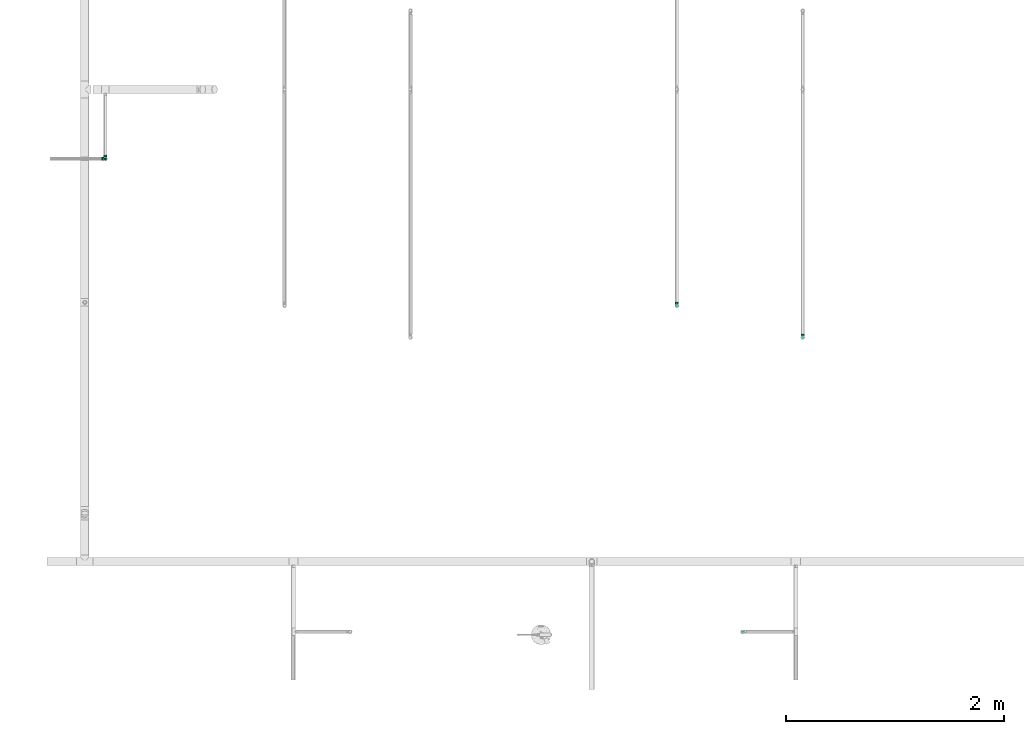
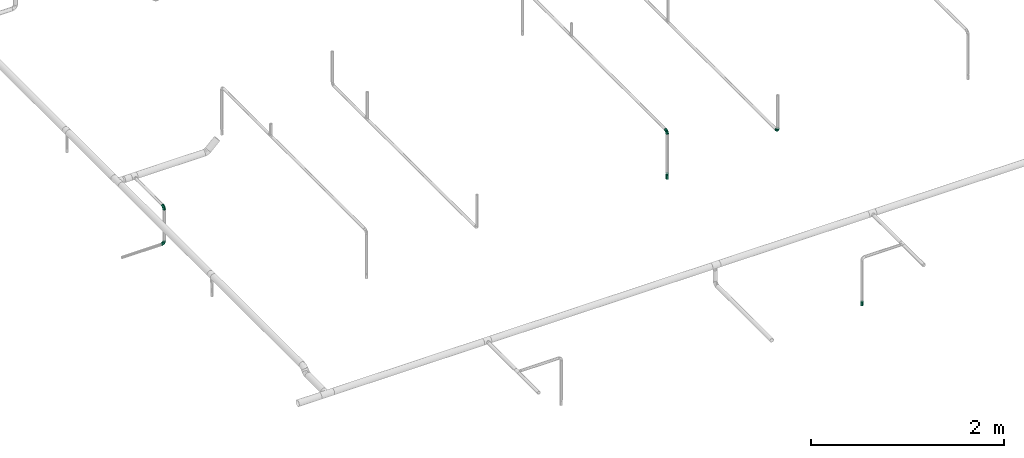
# One storey, part 41 of 95: 5 flow fittings, 2 flow terminals.
"""IFC2X3 building model written with IfcOpenShell, lengths in millimetres."""

from ifc_helpers import new_model, entity, si_unit, converted_unit, derived_unit, direction, frame, origin_with_axes, place, context, subcontext, project, spatial, open_shell, surface_model, source, transform, mapped, type_object, element, save


model = new_model("IFC2X3")

# Units and contexts
model_context = context("Model", 3, precision=0.01, world=frame((0.0, 4.29681676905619e-09, 0.0)), true_north=direction((4.01073788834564e-13, 1.0)))
plan_context = context("Plan", 3, precision=0.01, world=frame((0.0, 4.29681676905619e-09, 0.0)), true_north=direction((4.01073788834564e-13, 1.0)))
body_context = subcontext(model_context, "Body", "Model", "MODEL_VIEW")
ifc_project = project(units=[converted_unit("PLANEANGLEUNIT", "DEGREE", entity("IfcPositiveLengthMeasure", 0.0174532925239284), si_unit("PLANEANGLEUNIT", "RADIAN"), dimensions=[0, 0, 0, 0, 0, 0, 0]), si_unit("AREAUNIT", "SQUARE_METRE"), si_unit("LENGTHUNIT", "METRE", prefix="MILLI"), si_unit("MASSUNIT", "GRAM", prefix="KILO"), si_unit("POWERUNIT", "WATT"), si_unit("PRESSUREUNIT", "PASCAL"), si_unit("FORCEUNIT", "NEWTON", prefix="KILO"), si_unit("ELECTRICVOLTAGEUNIT", "VOLT"), si_unit("ELECTRICCURRENTUNIT", "AMPERE"), si_unit("THERMODYNAMICTEMPERATUREUNIT", "DEGREE_CELSIUS"), si_unit("TIMEUNIT", "SECOND"), si_unit("VOLUMEUNIT", "CUBIC_METRE"), derived_unit("LINEARVELOCITYUNIT", [(si_unit("LENGTHUNIT", "METRE"), 1), (si_unit("TIMEUNIT", "SECOND"), -1)]), derived_unit("VOLUMETRICFLOWRATEUNIT", [(si_unit("VOLUMEUNIT", "CUBIC_METRE"), 1), (si_unit("TIMEUNIT", "SECOND"), -1)]), derived_unit("THERMALTRANSMITTANCEUNIT", [(si_unit("POWERUNIT", "WATT"), 1), (si_unit("THERMODYNAMICTEMPERATUREUNIT", "KELVIN"), -1), (si_unit("AREAUNIT", "SQUARE_METRE"), -1)]), derived_unit("SOUNDPRESSUREUNIT", [(si_unit("PRESSUREUNIT", "PASCAL"), 1)])], contexts=[model_context, plan_context])

# Site, building, storey
site_placement = place(None, frame((0.0, -4.29681676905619e-09, 0.0), z_axis=(0.0, 0.0, 1.0), x_axis=(1.0, 0.0, 0.0)))
site = spatial("IfcSite", under=ifc_project, at=site_placement, CompositionType="ELEMENT")
building_placement = place(site_placement, frame((0.0, 4.29681676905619e-09, 0.0), z_axis=(0.0, 0.0, 1.0), x_axis=(1.0, 0.0, 0.0)))
building = spatial("IfcBuilding", under=site, at=building_placement, Name="mc-building", CompositionType="ELEMENT")
storey_placement = place(building_placement, frame((0.0, 0.0, 210900.0), z_axis=(0.0, 0.0, 1.0), x_axis=(1.0, 0.0, 0.0)))
storey = spatial("IfcBuildingStorey", under=building, at=storey_placement, Name="Nivå F", CompositionType="ELEMENT", Elevation=210900.0)

# Flow fittings
pipe_fitting_type_1 = type_object("IfcPipeFittingType", Name="magi_pipe_fe_reducer_centric_short_NOR", PredefinedType="TRANSITION")
shared_shape_1 = source(origin_with_axes(), body_context, "Body", "SurfaceModel", [
    surface_model("IfcShellBasedSurfaceModel", [(-2.0, -7.56604, -7.56604), (-2.0, -10.33541, -2.76936), (-2.0, -5.35, -9.26647), (-2.0, 5.35, -9.26647), (-2.0, 10.33541, -2.76936), (-2.0, 7.56604, -7.56604), (12.4, 11.9501, 11.9501), (12.4, 0.0, 16.9), (12.4, 11.9501, -11.9501), (12.4, 16.9, 0.0), (0.0, -10.7, 0.0), (0.0, -5.35, 9.26647), (0.0, -5.35, -9.26647), (0.0, 10.7, 0.0), (12.4, 15.66253, -2.98753), (12.4, 8.96258, -13.18758), (0.0, 6.6875, -6.94985), (12.4, -15.66253, -2.98753), (12.4, -16.9, 0.0), (12.4, 5.97505, -14.42505), (0.0, 5.35, -9.26647), (12.4, 14.42505, -5.97505), (0.0, 8.025, -4.63324), (0.0, 9.3625, -2.31662), (0.0, -9.3625, -2.31662), (0.0, -8.025, -4.63324), (12.4, -14.42505, -5.97505), (12.4, 13.18758, -8.96258), (12.4, -13.18758, -8.96258), (12.4, -11.9501, -11.9501), (0.0, -6.6875, -6.94985), (12.4, -8.96258, -13.18758), (12.4, -5.97505, -14.42505), (12.4, -15.66253, 2.98753), (12.4, -8.96258, 13.18758), (0.0, -6.6875, 6.94985), (12.4, -11.9501, 11.9501), (12.4, 15.66253, 2.98753), (12.4, -5.97505, 14.42505), (12.4, -14.42505, 5.97505), (0.0, -8.025, 4.63324), (0.0, -9.3625, 2.31662), (0.0, 9.3625, 2.31662), (0.0, 8.025, 4.63324), (12.4, 14.42505, 5.97505), (12.4, -13.18758, 8.96258), (12.4, 13.18758, 8.96258), (0.0, 6.6875, 6.94985), (12.4, 8.96258, 13.18758), (0.0, 5.35, 9.26647), (12.4, 5.97505, 14.42505), (14.4, 4.37404, -16.32415), (14.4, 8.45, -14.63583), (14.4, 11.9501, -11.9501), (14.4, -8.45, -14.63583), (14.4, 16.32415, -4.37404), (14.4, 16.32415, 4.37404), (14.4, 14.63583, -8.45), (14.4, 0.0, -16.9), (14.4, -4.37404, -16.32415), (14.4, -11.9501, -11.9501), (14.4, -16.32415, -4.37404), (14.4, -14.63583, -8.45), (14.4, -16.32415, 4.37404), (14.4, 16.9, 0.0), (14.4, 14.63583, 8.45), (14.4, 11.9501, 11.9501), (14.4, 4.37404, 16.32415), (14.4, 8.45, 14.63583), (14.4, 0.0, 16.9), (14.4, -14.63583, 8.45), (14.4, -16.9, 0.0), (14.4, -8.45, 14.63583), (14.4, -11.9501, 11.9501), (14.4, -4.37404, 16.32415), (12.4, 4.37404, 16.32415), (12.4, -14.63583, 8.45), (12.4, 16.32415, 4.37404), (12.4, 8.45, 14.63583), (12.4, 14.63583, 8.45), (12.4, -8.45, 14.63583), (12.4, -4.37404, 16.32415), (12.4, -16.32415, 4.37404), (12.4, -16.32415, -4.37404), (12.4, -8.45, -14.63583), (12.4, 16.32415, -4.37404), (12.4, 14.63583, -8.45), (12.4, 8.45, -14.63583), (12.4, 4.37404, -16.32415), (12.4, 0.0, -16.9), (12.4, -14.63583, -8.45), (12.4, -4.37404, -16.32415), (-2.0, 2.76936, 10.33541), (-2.0, 0.0, 10.7), (-2.0, 5.35, 9.26647), (-2.0, 7.56604, 7.56604), (-2.0, 9.26647, 5.35), (-2.0, 10.33541, 2.76936), (-2.0, -10.33541, 2.76936), (-2.0, -2.76936, 10.33541), (-2.0, -7.56604, 7.56604), (-2.0, -5.35, 9.26647), (-2.0, -9.26647, 5.35), (-2.0, -10.7, 0.0), (-2.0, 9.26647, -5.35), (-2.0, 2.76936, -10.33541), (-2.0, -9.26647, -5.35), (-2.0, 0.0, -10.7), (-2.0, -2.76936, -10.33541), (-2.0, 10.7, 0.0), (0.0, 0.0, -10.7), (0.0, 2.76936, -10.33541), (0.0, 10.33541, -2.76936), (0.0, 7.56604, -7.56604), (0.0, -10.33541, -2.76936), (0.0, 9.26647, -5.35), (0.0, 0.0, 10.7), (0.0, -2.76936, -10.33541), (0.0, -7.56604, -7.56604), (0.0, -9.26647, -5.35), (0.0, 10.33541, 2.76936), (0.0, 9.26647, 5.35), (0.0, 7.56604, 7.56604), (0.0, 2.76936, 10.33541), (0.0, -7.56604, 7.56604), (0.0, -10.33541, 2.76936), (0.0, -9.26647, 5.35), (0.0, -2.76936, 10.33541), (0.0, 2.675, -9.26647), (0.0, -2.675, -9.26647), (12.4, 2.98753, -15.66253), (0.0, 0.0, -9.26647), (12.4, -2.98753, -15.66253), (0.0, -2.675, 9.26647), (0.0, 2.675, 9.26647), (12.4, -2.98753, 15.66253), (0.0, 0.0, 9.26647), (12.4, 2.98753, 15.66253)], [open_shell([[[0, 1, 2]], [[3, 4, 5]], [[6, 7, 8]], [[8, 9, 6]], [[10, 11, 12]], [[13, 9, 14]], [[15, 16, 8]], [[17, 18, 10]], [[15, 19, 20]], [[21, 22, 23]], [[24, 25, 26]], [[22, 21, 27]], [[28, 26, 25]], [[29, 30, 31]], [[12, 32, 31]], [[10, 18, 33]], [[34, 35, 36]], [[37, 9, 13]], [[34, 38, 11]], [[39, 40, 41]], [[42, 43, 44]], [[40, 39, 45]], [[46, 44, 43]], [[6, 47, 48]], [[49, 50, 48]], [[51, 52, 53]], [[54, 51, 53]], [[53, 55, 56]], [[55, 53, 57]], [[53, 56, 54]], [[58, 54, 59]], [[58, 51, 54]], [[60, 61, 62]], [[61, 60, 54]], [[54, 63, 61]], [[56, 55, 64]], [[56, 65, 66]], [[56, 66, 67]], [[67, 63, 54]], [[67, 66, 68]], [[63, 67, 69]], [[69, 70, 63]], [[71, 61, 63]], [[70, 72, 73]], [[70, 69, 72]], [[72, 69, 74]], [[54, 56, 67]], [[75, 76, 7]], [[77, 75, 78]], [[6, 79, 77]], [[6, 77, 78]], [[76, 75, 77]], [[80, 76, 36]], [[80, 81, 7]], [[7, 76, 80]], [[82, 76, 77]], [[82, 83, 18]], [[82, 77, 84]], [[77, 85, 8]], [[8, 85, 86]], [[8, 87, 88]], [[84, 77, 8]], [[88, 89, 8]], [[83, 29, 90]], [[29, 83, 84]], [[84, 89, 91]], [[83, 82, 84]], [[8, 89, 84]], [[85, 77, 9]], [[83, 61, 18]], [[90, 62, 83]], [[54, 29, 84]], [[90, 29, 60]], [[59, 84, 91]], [[83, 62, 61]], [[61, 71, 18]], [[59, 54, 84]], [[60, 29, 54]], [[60, 62, 90]], [[58, 59, 91]], [[91, 89, 58]], [[88, 51, 89]], [[87, 52, 88]], [[57, 8, 86]], [[87, 8, 53]], [[55, 86, 85]], [[87, 53, 52]], [[52, 51, 88]], [[64, 55, 85]], [[57, 86, 55]], [[57, 53, 8]], [[9, 64, 85]], [[89, 51, 58]], [[77, 56, 9]], [[79, 65, 77]], [[68, 6, 78]], [[79, 6, 66]], [[67, 78, 75]], [[77, 65, 56]], [[56, 64, 9]], [[67, 68, 78]], [[66, 6, 68]], [[66, 65, 79]], [[69, 67, 75]], [[75, 7, 69]], [[81, 74, 7]], [[80, 72, 81]], [[70, 36, 76]], [[80, 36, 73]], [[63, 76, 82]], [[80, 73, 72]], [[72, 74, 81]], [[71, 63, 82]], [[70, 76, 63]], [[70, 73, 36]], [[18, 71, 82]], [[7, 74, 69]], [[92, 1, 93]], [[94, 1, 92]], [[95, 96, 97]], [[95, 97, 94]], [[98, 93, 1]], [[99, 100, 101]], [[99, 93, 100]], [[100, 98, 102]], [[93, 98, 100]], [[98, 1, 103]], [[94, 97, 1]], [[1, 97, 4]], [[5, 4, 104]], [[4, 3, 1]], [[105, 1, 3]], [[1, 0, 106]], [[2, 107, 108]], [[2, 1, 105]], [[105, 107, 2]], [[4, 97, 109]], [[20, 110, 111]], [[112, 20, 113]], [[114, 20, 112]], [[112, 113, 115]], [[116, 114, 112]], [[110, 12, 117]], [[110, 20, 12]], [[118, 114, 119]], [[114, 118, 12]], [[20, 114, 12]], [[112, 13, 120]], [[120, 121, 122]], [[120, 122, 123]], [[116, 112, 123]], [[123, 122, 49]], [[116, 124, 114]], [[125, 124, 126]], [[10, 114, 125]], [[124, 127, 11]], [[125, 114, 124]], [[127, 124, 116]], [[123, 112, 120]], [[1, 114, 103]], [[106, 119, 1]], [[12, 0, 2]], [[106, 0, 118]], [[117, 2, 108]], [[1, 119, 114]], [[114, 10, 103]], [[117, 12, 2]], [[118, 0, 12]], [[118, 119, 106]], [[110, 117, 108]], [[108, 107, 110]], [[105, 111, 107]], [[3, 20, 105]], [[115, 5, 104]], [[3, 5, 113]], [[112, 104, 4]], [[3, 113, 20]], [[20, 111, 105]], [[13, 112, 4]], [[115, 104, 112]], [[115, 113, 5]], [[109, 13, 4]], [[107, 111, 110]], [[97, 120, 109]], [[96, 121, 97]], [[49, 95, 94]], [[96, 95, 122]], [[123, 94, 92]], [[97, 121, 120]], [[120, 13, 109]], [[123, 49, 94]], [[122, 95, 49]], [[122, 121, 96]], [[116, 123, 92]], [[92, 93, 116]], [[99, 127, 93]], [[101, 11, 99]], [[126, 100, 102]], [[101, 100, 124]], [[125, 102, 98]], [[101, 124, 11]], [[11, 127, 99]], [[10, 125, 98]], [[126, 102, 125]], [[126, 124, 100]], [[103, 10, 98]], [[93, 127, 116]], [[18, 7, 36]], [[18, 29, 8]], [[89, 8, 29]], [[18, 8, 7]], [[13, 11, 49]], [[13, 20, 12]], [[13, 12, 11]], [[24, 26, 17]], [[10, 24, 17]], [[16, 15, 20]], [[30, 12, 31]], [[23, 14, 21]], [[19, 128, 20]], [[27, 8, 16]], [[32, 12, 129]], [[30, 28, 25]], [[130, 131, 128]], [[129, 132, 32]], [[16, 22, 27]], [[13, 14, 23]], [[128, 19, 130]], [[130, 89, 131]], [[131, 132, 129]], [[89, 132, 131]], [[28, 30, 29]], [[42, 44, 37]], [[13, 42, 37]], [[35, 34, 11]], [[47, 49, 48]], [[41, 33, 39]], [[38, 133, 11]], [[45, 36, 35]], [[50, 49, 134]], [[47, 46, 43]], [[135, 136, 133]], [[134, 137, 50]], [[35, 40, 45]], [[10, 33, 41]], [[133, 38, 135]], [[135, 7, 136]], [[136, 137, 134]], [[7, 137, 136]], [[46, 47, 6]]])]),
])
flow_fitting_placement = place(storey_placement, frame((526298.68266, 444207.85, 3762.948), z_axis=(-1.0, 0.0, 0.0), x_axis=(0.0, 0.0, 1.0)))
element("IfcFlowFitting", 1, at=flow_fitting_placement, inside=storey, type_object=pipe_fitting_type_1, Name="magi_pipe_fe_reducer_centric_short_NOR", context=body_context, shape_type="MappedRepresentation", body=[
    mapped(shared_shape_1, transform((0.0, 0.0, 0.0), scale=1.0)),
])
pipe_fitting_type_2 = type_object("IfcPipeFittingType", Name="magi_pipe_fe_elbow_short_001", PredefinedType="BEND")
shared_shape_2 = source(origin_with_axes(), body_context, "Body", "SurfaceModel", [
    surface_model("IfcShellBasedSurfaceModel", [(-33.8, 8.45, -14.63583), (-33.8, 4.37404, -16.32415), (-33.8, 11.9501, -11.9501), (-33.8, -11.9501, -11.9501), (-33.8, -14.63583, -8.45), (-33.8, -8.45, -14.63583), (-33.8, 0.0, -16.9), (-33.8, -4.37404, -16.32415), (-33.8, -4.37404, 16.32415), (-33.8, 0.0, 16.9), (-33.8, -8.45, 14.63583), (-33.8, 16.32415, -4.37404), (-33.8, 14.63583, -8.45), (-33.8, -16.32415, -4.37404), (-33.8, -16.9, 0.0), (-33.8, -16.32415, 4.37404), (-33.8, 11.9501, 11.9501), (-33.8, 14.63583, 8.45), (-33.8, 16.32415, 4.37404), (-33.8, 4.37404, 16.32415), (-33.8, 8.45, 14.63583), (-33.8, -14.63583, 8.45), (-33.8, -11.9501, 11.9501), (-33.8, 16.9, 0.0), (-11.9501, 33.8, -11.9501), (0.0, 33.8, -16.9), (-4.37404, 33.8, -16.32415), (-8.45, 33.8, -14.63583), (-14.63583, 33.8, -8.45), (-16.32415, 33.8, -4.37404), (14.63583, 33.8, -8.45), (8.45, 33.8, 14.63583), (16.32415, 33.8, -4.37404), (8.45, 33.8, -14.63583), (11.9501, 33.8, -11.9501), (4.37404, 33.8, -16.32415), (16.32415, 33.8, 4.37404), (16.9, 33.8, 0.0), (-11.9501, 33.8, 11.9501), (-16.32415, 33.8, 4.37404), (-14.63583, 33.8, 8.45), (-8.45, 33.8, 14.63583), (-4.37404, 33.8, 16.32415), (11.9501, 33.8, 11.9501), (14.63583, 33.8, 8.45), (0.0, 33.8, 16.9), (4.37404, 33.8, 16.32415), (-16.9, 33.8, 0.0), (-24.79389, -13.12945, 9.48721), (-22.19287, -9.75018, 12.59315), (-24.09897, -14.97035, 0.0), (-14.93934, -10.76256, 8.5297), (-22.46095, -14.75051, 5.27077), (14.75051, 22.46094, 5.27077), (11.9251, 13.23888, 4.33236), (13.04069, 14.39795, 0.0), (7.71387, 13.68847, 11.55891), (9.75018, 22.19287, 12.59315), (4.10169, 13.0571, 14.04018), (-24.84007, -6.39063, 15.2048), (-25.81779, -2.23879, 16.61097), (-23.66549, 2.59054, 16.87119), (-26.50418, 14.06512, 11.08152), (-24.21253, 17.66365, 7.72657), (-29.58514, 15.86957, 7.00283), (-6.17382, -7.5455, 0.0), (-13.23888, -11.9251, 4.33236), (-14.39795, -13.04069, 0.0), (-17.81434, 18.87373, 11.97104), (-6.30846, 29.15138, 15.82987), (-2.31622, 25.28002, 16.85849), (-29.23923, 10.23435, 13.77053), (-1.45439, -2.85688, 7.61475), (-0.28326, 0.34872, 10.09509), (-5.74484, -4.04709, 10.4122), (-4.41137, 11.31918, 16.59407), (-8.39727, 3.10034, 15.7812), (-1.72649, 9.1306, 15.53089), (-17.39909, 24.75344, 7.64977), (-26.19233, 20.0512, 0.0), (-28.14518, 17.29657, 4.25857), (-26.05147, 6.6281, 15.96447), (-5.87354, 16.61944, 16.86968), (-12.51807, 12.51807, 16.48937), (-10.06312, 7.38516, 16.81295), (-3.01882, 3.01882, 13.81718), (-13.0571, -4.10169, 14.04018), (-16.82553, -0.15166, 16.38038), (10.76256, 14.93934, 8.5297), (13.12945, 24.79389, 9.48721), (6.39063, 24.84007, 15.2048), (2.23879, 25.81779, 16.61097), (-13.68847, -7.71387, 11.55891), (14.97035, 24.09897, 0.0), (-7.30894, 22.89991, 16.09489), (-10.67958, 26.17414, 14.008), (-12.78295, 18.26924, 15.06066), (-13.88562, 22.45231, 12.93244), (-18.04944, 15.16501, 14.04434), (-23.11658, 20.08178, 4.02986), (-21.84989, 21.84989, 0.0), (-18.55817, 25.48277, 3.93065), (-13.95142, 26.94732, 11.03289), (-18.57098, 7.23906, 16.59756), (-16.58335, 4.14122, 16.89279), (-17.96666, 11.46709, 15.63151), (-9.84453, 17.54304, 16.18938), (0.15166, 16.82553, 16.38038), (-23.27207, 11.47201, 14.23154), (3.84842, 5.86994, 10.70473), (-8.0212, -7.54413, 7.93275), (1.00345, -2.19508, 4.57414), (5.13203, 3.01004, 5.90201), (5.24161, 1.7543, 2.53265), (8.70457, 7.04947, 3.99182), (-20.0512, 26.19233, 0.0), (8.4852, 8.76699, 7.09296), (-4.55488, -6.72064, 4.90681), (2.05031, -2.05031, 0.0), (7.5455, 6.17382, 0.0), (-26.75399, 2.1369, -16.845), (-14.61995, 24.73803, -11.27736), (-28.45274, -13.45335, -9.81895), (-26.00469, 6.63555, -15.96645), (-23.06726, 20.04573, -4.26202), (-13.80647, -4.26506, -14.17873), (-14.67501, -0.21081, -16.07388), (-6.7902, -0.2828, -13.8478), (-24.53586, 11.08096, -14.13417), (-26.72048, 14.00837, -11.05776), (10.0967, 24.44989, -12.75976), (5.83237, 21.40218, -15.03047), (6.66249, 28.54238, -15.38093), (-20.38182, 15.48705, -12.74596), (12.53268, 21.23441, -9.15363), (12.54494, 15.67504, -5.54878), (9.7522, 12.89279, -8.66343), (-15.65186, 19.64213, -13.01327), (-12.03528, 20.66498, -14.67665), (-15.61907, 15.61906, -14.83879), (-25.56551, -15.26206, 0.0), (-24.65452, -15.12934, -5.50955), (13.45335, 28.45274, -9.81895), (15.12934, 24.65452, -5.50955), (-7.35442, -8.31014, -5.65563), (-15.67504, -12.54494, -5.54878), (-24.44989, -10.0967, -12.75976), (0.16522, 0.41303, -9.71728), (-5.70658, -5.33066, -8.89288), (-5.13869, -2.37198, -11.53565), (-21.23441, -12.53268, -9.15363), (0.71146, 7.93863, -14.09382), (0.21081, 14.67501, -16.07388), (3.49291, 14.42772, -14.76381), (-24.89911, -2.13088, -16.591), (-28.54238, -6.66249, -15.38093), (-18.44386, -7.71663, -13.26957), (2.13088, 24.89911, -16.591), (-28.64342, 17.44413, -2.89318), (1.70017, -1.28722, -5.09504), (-16.57067, 26.81947, -7.36596), (-17.69055, 27.4263, -3.76405), (-12.89279, -9.7522, -8.66343), (-5.96611, 5.96611, -15.95814), (-20.53709, 20.09345, -8.28985), (-2.1369, 26.75399, -16.845), (-6.89872, 24.58781, -16.02578), (-10.60739, 26.53157, -13.98044), (-21.40218, -5.83237, -15.03047), (2.93192, 5.89627, -11.55917), (6.89393, 12.61842, -11.82233), (5.58056, 5.95325, -8.79455), (-3.99512, 18.61798, -16.89635), (8.31014, 7.35442, -5.65563), (-9.1383, 9.86148, -16.89041), (-9.99983, 16.02119, -16.39699), (-16.68576, 9.78031, -16.34199), (-27.01915, 16.61158, -7.12979), (15.26206, 25.56551, 0.0), (-18.61798, 3.99512, -16.89635), (-19.37495, 27.82495, 0.0), (-12.61842, -6.89393, -11.82233), (-18.84705, 19.14018, -10.96545)], [open_shell([[[0, 1, 2]], [[3, 4, 5]], [[6, 7, 5]], [[8, 9, 10]], [[1, 6, 2]], [[11, 12, 2]], [[4, 2, 6]], [[2, 13, 10]], [[5, 4, 6]], [[2, 4, 13]], [[14, 15, 13]], [[11, 2, 16]], [[11, 17, 18]], [[11, 16, 17]], [[19, 20, 16]], [[16, 2, 10]], [[19, 16, 10]], [[21, 22, 15]], [[22, 13, 15]], [[22, 10, 13]], [[10, 9, 19]], [[11, 18, 23]], [[24, 25, 26]], [[24, 26, 27]], [[24, 28, 29]], [[25, 24, 30]], [[31, 32, 24]], [[33, 30, 34]], [[33, 35, 25]], [[25, 30, 33]], [[32, 30, 24]], [[32, 36, 37]], [[38, 24, 29]], [[39, 40, 29]], [[40, 38, 29]], [[38, 41, 42]], [[38, 31, 24]], [[31, 38, 42]], [[36, 43, 44]], [[36, 32, 43]], [[31, 45, 46]], [[32, 31, 43]], [[42, 45, 31]], [[39, 29, 47]], [[22, 48, 49]], [[15, 14, 50]], [[51, 48, 52]], [[53, 54, 55]], [[48, 22, 21]], [[15, 52, 21]], [[56, 57, 58]], [[49, 10, 22]], [[49, 59, 10]], [[9, 60, 61]], [[62, 63, 64]], [[65, 66, 67]], [[57, 43, 31]], [[62, 68, 63]], [[42, 69, 70]], [[20, 71, 16]], [[8, 60, 9]], [[72, 73, 74]], [[75, 76, 77]], [[16, 62, 17]], [[40, 39, 78]], [[79, 23, 80]], [[64, 18, 17]], [[9, 61, 19]], [[19, 81, 20]], [[82, 83, 84]], [[74, 85, 86]], [[59, 86, 87]], [[88, 89, 57]], [[90, 31, 46]], [[44, 53, 36]], [[46, 45, 91]], [[54, 53, 88]], [[44, 89, 53]], [[92, 86, 49]], [[89, 44, 43]], [[10, 59, 8]], [[53, 55, 93]], [[93, 36, 53]], [[66, 52, 67]], [[94, 82, 70]], [[95, 96, 94]], [[97, 98, 96]], [[79, 99, 100]], [[41, 38, 95]], [[101, 100, 99]], [[68, 78, 63]], [[42, 41, 69]], [[23, 18, 80]], [[95, 94, 69]], [[78, 101, 99]], [[38, 102, 95]], [[70, 45, 42]], [[97, 95, 102]], [[15, 50, 52]], [[90, 57, 31]], [[57, 90, 58]], [[81, 19, 61]], [[103, 104, 84]], [[105, 81, 103]], [[38, 40, 102]], [[106, 96, 83]], [[94, 106, 82]], [[91, 70, 107]], [[71, 62, 16]], [[62, 108, 98]], [[86, 59, 49]], [[67, 52, 50]], [[60, 59, 87]], [[92, 49, 51]], [[86, 85, 76]], [[91, 90, 46]], [[37, 36, 93]], [[107, 77, 58]], [[107, 58, 90]], [[58, 85, 109]], [[110, 74, 92]], [[72, 74, 110]], [[66, 51, 52]], [[72, 111, 112]], [[113, 114, 112]], [[56, 88, 57]], [[52, 48, 21]], [[49, 48, 51]], [[57, 89, 43]], [[53, 89, 88]], [[103, 81, 61]], [[71, 81, 108]], [[18, 64, 80]], [[63, 78, 99]], [[47, 115, 101]], [[101, 115, 100]], [[40, 78, 102]], [[68, 102, 78]], [[97, 96, 95]], [[105, 98, 108]], [[103, 84, 83]], [[107, 70, 82]], [[76, 84, 87]], [[82, 84, 75]], [[70, 91, 45]], [[90, 91, 107]], [[59, 60, 8]], [[61, 60, 87]], [[73, 85, 74]], [[109, 112, 116]], [[103, 61, 104]], [[105, 103, 83]], [[96, 105, 83]], [[81, 105, 108]], [[96, 98, 105]], [[62, 98, 68]], [[61, 87, 104]], [[87, 84, 104]], [[86, 76, 87]], [[77, 76, 85]], [[58, 77, 85]], [[75, 77, 107]], [[82, 75, 107]], [[76, 75, 84]], [[81, 71, 20]], [[62, 71, 108]], [[95, 69, 41]], [[70, 69, 94]], [[62, 64, 17]], [[80, 63, 99]], [[63, 80, 64]], [[80, 99, 79]], [[66, 65, 117]], [[110, 66, 117]], [[112, 114, 116]], [[118, 117, 65]], [[110, 92, 51]], [[112, 111, 113]], [[119, 55, 54]], [[74, 86, 92]], [[58, 109, 56]], [[116, 56, 109]], [[66, 110, 51]], [[72, 110, 117]], [[111, 72, 117]], [[73, 112, 109]], [[117, 118, 111]], [[113, 111, 118]], [[118, 119, 113]], [[114, 119, 54]], [[119, 114, 113]], [[116, 54, 88]], [[54, 116, 114]], [[116, 88, 56]], [[112, 73, 72]], [[85, 73, 109]], [[78, 39, 101]], [[47, 101, 39]], [[102, 68, 97]], [[97, 68, 98]], [[82, 106, 83]], [[94, 96, 106]], [[1, 120, 6]], [[28, 24, 121]], [[3, 122, 4]], [[0, 123, 1]], [[100, 124, 79]], [[125, 126, 127]], [[128, 2, 129]], [[130, 131, 132]], [[128, 129, 133]], [[134, 135, 136]], [[137, 138, 139]], [[128, 0, 2]], [[67, 140, 141]], [[134, 142, 143]], [[141, 13, 4]], [[144, 65, 145]], [[146, 3, 5]], [[147, 148, 149]], [[145, 141, 150]], [[151, 152, 153]], [[154, 7, 6]], [[5, 155, 146]], [[150, 146, 156]], [[155, 5, 7]], [[143, 135, 134]], [[35, 157, 25]], [[23, 79, 158]], [[148, 159, 144]], [[160, 161, 29]], [[145, 162, 144]], [[163, 152, 151]], [[29, 28, 160]], [[121, 164, 160]], [[33, 34, 130]], [[25, 165, 26]], [[26, 165, 166]], [[142, 34, 30]], [[24, 27, 167]], [[124, 161, 164]], [[157, 35, 132]], [[155, 154, 168]], [[123, 0, 128]], [[169, 170, 171]], [[172, 157, 152]], [[26, 166, 27]], [[132, 35, 33]], [[142, 130, 34]], [[168, 154, 126]], [[136, 135, 173]], [[133, 137, 139]], [[2, 12, 129]], [[170, 131, 130]], [[30, 32, 143]], [[172, 174, 175]], [[176, 123, 128]], [[158, 177, 11]], [[135, 55, 119]], [[167, 27, 166]], [[175, 166, 172]], [[137, 167, 138]], [[122, 141, 4]], [[140, 14, 13]], [[32, 37, 178]], [[170, 130, 134]], [[152, 157, 131]], [[165, 157, 172]], [[153, 170, 151]], [[152, 163, 174]], [[168, 125, 156]], [[122, 146, 150]], [[120, 154, 6]], [[179, 174, 126]], [[179, 126, 154]], [[126, 163, 127]], [[162, 145, 150]], [[140, 13, 141]], [[32, 178, 143]], [[55, 143, 178]], [[177, 129, 12]], [[128, 133, 139]], [[176, 128, 139]], [[120, 123, 179]], [[121, 160, 28]], [[161, 100, 180]], [[166, 175, 138]], [[121, 24, 167]], [[161, 47, 29]], [[79, 124, 158]], [[124, 164, 177]], [[161, 124, 100]], [[136, 171, 170]], [[127, 163, 151]], [[147, 171, 159]], [[148, 144, 162]], [[127, 151, 169]], [[127, 181, 125]], [[129, 177, 164]], [[12, 11, 177]], [[159, 65, 144]], [[67, 141, 145]], [[143, 55, 135]], [[135, 119, 173]], [[123, 120, 1]], [[154, 120, 179]], [[157, 165, 25]], [[166, 165, 172]], [[172, 152, 174]], [[176, 139, 175]], [[126, 174, 163]], [[176, 174, 179]], [[174, 176, 175]], [[123, 176, 179]], [[150, 181, 162]], [[127, 149, 181]], [[181, 148, 162]], [[159, 148, 147]], [[171, 136, 173]], [[170, 134, 136]], [[159, 171, 173]], [[171, 147, 169]], [[169, 147, 149]], [[151, 170, 169]], [[164, 182, 129]], [[182, 121, 137]], [[181, 149, 148]], [[169, 149, 127]], [[182, 137, 133]], [[167, 137, 121]], [[166, 138, 167]], [[175, 139, 138]], [[129, 182, 133]], [[121, 182, 164]], [[161, 160, 164]], [[47, 161, 180]], [[177, 158, 124]], [[23, 158, 11]], [[130, 132, 33]], [[157, 132, 131]], [[143, 142, 30]], [[130, 142, 134]], [[154, 155, 7]], [[146, 155, 168]], [[146, 122, 3]], [[141, 122, 150]], [[152, 131, 153]], [[159, 119, 118]], [[67, 145, 65]], [[170, 153, 131]], [[119, 159, 173]], [[159, 118, 65]], [[156, 125, 181]], [[126, 125, 168]], [[150, 156, 181]], [[168, 156, 146]]])]),
])
for number, where, z_axis, x_axis, name in (
    (2, (521054.45717, 445554.73125, 3906.03085000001), (0.0, -1.0, 0.0), (1.0, 0.0, 0.0), "magi_pipe_fe_elbow_short_001"),
    (3, (527453.43639, 443915.88295, 4082.76795000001), (1.0, 0.0, 0.0), (0.0, 0.0, -1.0), "magi_pipe_fe_elbow_short_001"),
    (4, (521054.45717, 445554.73125, 4370.29999999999), (-1.0, 0.0, 0.0), (0.0, 0.0, 1.0), "magi_pipe_fe_elbow_short_001"),
    (5, (526298.68266, 444207.85, 4308.26618000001), (-1.0, 0.0, 0.0), (0.0, 0.0, 1.0), "magi_pipe_fe_elbow_short_001"),
):
    element("IfcFlowFitting", number, at=place(storey_placement, frame(where, z_axis=z_axis, x_axis=x_axis)), inside=storey, type_object=pipe_fitting_type_2, Name=name, context=body_context, shape_type="MappedRepresentation", body=[
        mapped(shared_shape_2, transform((0.0, 0.0, 0.0), scale=1.0)),
    ])

# Flow terminals
fire_suppression_terminal_type_1 = type_object("IfcFireSuppressionTerminalType", Name="SP-15-K80-68DGR-STD-HIMLING", PredefinedType="NOTDEFINED")
shared_shape_3 = source(origin_with_axes(), body_context, "Body", "SurfaceModel", [
    surface_model("IfcShellBasedSurfaceModel", [(15.45481, -4.1411, 53.0), (13.85641, -8.0, 53.0), (15.45481, -4.1411, 0.0), (16.0, 0.0, 0.0), (16.0, 0.0, 53.0), (15.45481, 4.1411, 0.0), (13.85641, 8.0, 53.0), (15.45481, 4.1411, 53.0), (11.31371, 11.31371, 53.0), (8.0, 13.85641, 53.0), (4.1411, 15.45481, 53.0), (-8.0, 13.85641, 53.0), (-4.1411, 15.45481, 53.0), (0.0, 16.0, 53.0), (-11.31371, 11.31371, 53.0), (-13.85641, 8.0, 53.0), (-15.45481, 4.1411, 53.0), (11.31371, -11.31371, 53.0), (-16.0, 0.0, 53.0), (0.0, -16.0, 53.0), (4.1411, -15.45481, 53.0), (8.0, -13.85641, 53.0), (-13.85641, -8.0, 53.0), (-11.31371, -11.31371, 53.0), (-15.45481, -4.1411, 53.0), (-8.0, -13.85641, 53.0), (-4.1411, -15.45481, 53.0), (8.0, -13.85641, 0.0), (4.1411, -15.45481, 0.0), (0.0, -16.0, 0.0), (-4.1411, -15.45481, 0.0), (13.85641, -8.0, 0.0), (11.31371, -11.31371, 0.0), (-16.0, 0.0, 0.0), (-8.0, -13.85641, 0.0), (-11.31371, -11.31371, 0.0), (-13.85641, -8.0, 0.0), (-15.45481, -4.1411, 0.0), (4.1411, 15.45481, 0.0), (13.85641, 8.0, 0.0), (8.0, 13.85641, 0.0), (11.31371, 11.31371, 0.0), (-15.45481, 4.1411, 0.0), (-11.31371, 11.31371, 0.0), (-8.0, 13.85641, 0.0), (-13.85641, 8.0, 0.0), (-4.1411, 15.45481, 0.0), (0.0, 16.0, 0.0)], [open_shell([[[0, 1, 2]], [[3, 4, 0]], [[5, 6, 7]], [[7, 4, 3]], [[8, 9, 10]], [[8, 10, 11]], [[8, 4, 7]], [[6, 8, 7]], [[4, 8, 11]], [[12, 11, 13]], [[11, 10, 13]], [[14, 15, 11]], [[16, 11, 15]], [[11, 16, 4]], [[16, 0, 4]], [[17, 1, 0]], [[18, 17, 16]], [[19, 20, 21]], [[18, 21, 17]], [[21, 18, 19]], [[22, 23, 24]], [[18, 24, 23]], [[25, 26, 23]], [[18, 23, 26]], [[26, 19, 18]], [[0, 16, 17]], [[27, 28, 29]], [[27, 29, 30]], [[2, 31, 32]], [[32, 27, 33]], [[2, 32, 33]], [[34, 35, 30]], [[36, 30, 35]], [[36, 37, 30]], [[37, 27, 30]], [[37, 33, 27]], [[33, 5, 2]], [[38, 5, 33]], [[39, 5, 38]], [[38, 40, 41]], [[39, 38, 41]], [[33, 42, 38]], [[43, 44, 45]], [[42, 45, 44]], [[46, 47, 44]], [[38, 42, 44]], [[44, 47, 38]], [[5, 3, 2]], [[45, 42, 16]], [[45, 15, 43]], [[46, 44, 11]], [[14, 44, 43]], [[47, 46, 12]], [[33, 18, 42]], [[18, 16, 42]], [[16, 15, 45]], [[15, 14, 43]], [[44, 14, 11]], [[11, 12, 46]], [[12, 13, 47]], [[40, 38, 10]], [[40, 9, 41]], [[5, 39, 6]], [[8, 39, 41]], [[3, 5, 7]], [[13, 10, 38]], [[10, 9, 40]], [[9, 8, 41]], [[8, 6, 39]], [[47, 13, 38]], [[2, 3, 0]], [[31, 2, 1]], [[28, 27, 21]], [[29, 28, 20]], [[1, 17, 32]], [[17, 27, 32]], [[21, 27, 17]], [[21, 20, 28]], [[31, 1, 32]], [[20, 19, 29]], [[34, 30, 26]], [[34, 25, 35]], [[37, 36, 22]], [[23, 36, 35]], [[33, 37, 24]], [[19, 26, 30]], [[26, 25, 34]], [[25, 23, 35]], [[23, 22, 36]], [[37, 22, 24]], [[24, 18, 33]], [[29, 19, 30]]])]),
])
flow_terminal_1_placement = place(storey_placement, frame((526901.52024, 441214.84363, 3760.0), z_axis=(0.0, 0.0, -1.0), x_axis=(1.0, 0.0, 0.0)))
element("IfcFlowTerminal", 6, at=flow_terminal_1_placement, inside=storey, type_object=fire_suppression_terminal_type_1, Name="SP-15-K80-68DGR-STD-HIMLING", context=body_context, shape_type="MappedRepresentation", body=[
    mapped(shared_shape_3, transform((0.0, 0.0, 0.0), scale=1.0)),
])
fire_suppression_terminal_type_2 = type_object("IfcFireSuppressionTerminalType", Name="SP-15-K80-68DGR-STD", PredefinedType="NOTDEFINED")
flow_terminal_2_placement = place(storey_placement, frame((526298.68266, 444207.85, 3759.89999999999), z_axis=(0.0, 0.0, -1.0), x_axis=(1.0, 0.0, 0.0)))
element("IfcFlowTerminal", 7, at=flow_terminal_2_placement, inside=storey, type_object=fire_suppression_terminal_type_2, Name="SP-15-K80-68DGR-STD", context=body_context, shape_type="MappedRepresentation", body=[
    mapped(shared_shape_3, transform((0.0, 0.0, 0.0), scale=1.0)),
])

save(model, "model.ifc")
